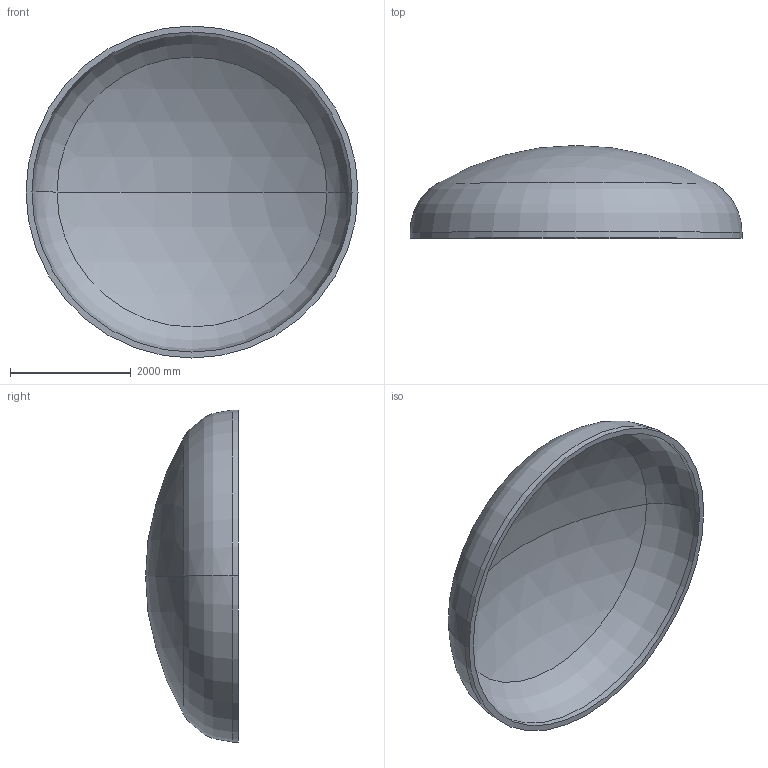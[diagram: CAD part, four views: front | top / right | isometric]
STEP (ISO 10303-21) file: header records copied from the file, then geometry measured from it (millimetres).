
FILE_DESCRIPTION (( 'STEP AP203' ), '1' );
FILE_NAME ('DIN 28013 Korbbogenform_-_Boden DIN 28013 - 5500 x 100 - I - s=98.step', '2016-07-04T10:35:07', ( '' ), ( '' ), 'SwSTEP 2.0', 'SolidWorks 2013', '' );
FILE_SCHEMA (( 'CONFIG_CONTROL_DESIGN' ));
Length unit declared in the file: millimetre
Products named in the file (1): DIN 28013 Korbbogenform_-_Boden DIN 28013 - 5500 x 100 - I - s=98
Bounding box: 5500 x 1536.5 x 5500 mm (x, y, z)
Volume: 3314649901.6 mm3; surface area: 69329152.6 mm2
Topology: 1 solids, 1 shells, 13 faces, 24 edges, 14 vertices
Faces by surface type: torus 4, cylinder 4, sphere 4, plane 1
Entity records: 407 total; most frequent: DIRECTION 72, CARTESIAN_POINT 52, ORIENTED_EDGE 48, AXIS2_PLACEMENT_3D 34, EDGE_CURVE 24, CIRCLE 20, VERTEX_POINT 14, EDGE_LOOP 14
